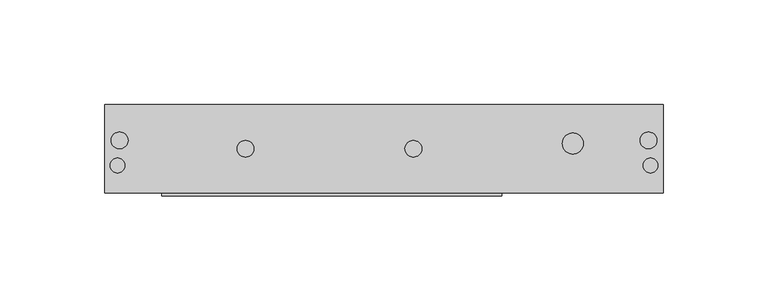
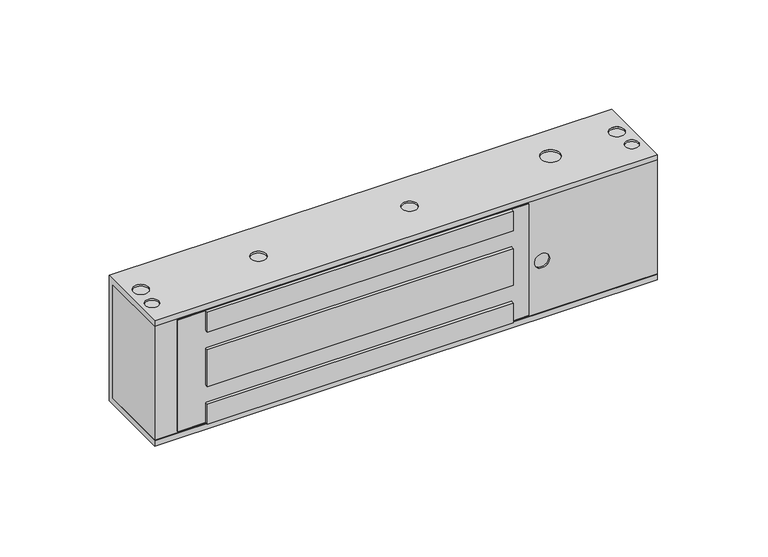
"""IFC4 building model written with IfcOpenShell, lengths in millimetres: proxy geometry, Электромагнитный_замок_ML-395-2_с_датчиком_Холла_серый_AccordTec_R19 : Электромагнитный_замок_ML-395-2_с_датчиком_Холла_серый_AccordTec_R19."""

from ifc_helpers import new_model, si_unit, frame, origin, place, context, project, spatial, polyline, circle_curve, outline, extrude, source, transform, mapped, element, save
from ifc_brep_helpers import plane_surface, revolved_surface, advanced_brep


def generic_models_15ee71e2(model_context):
    return source(origin(), model_context, "Body", "SolidModel", [
        extrude(outline(polyline([(189.0, -1.5), (27.0, -1.5), (27.0, 1.0), (189.0, 1.0), (189.0, -1.5)])), frame((0.0, 0.0, 55.25), z_axis=(0.0, 0.0, 1.0), x_axis=(1.0, 0.0, 0.0)), (0.0, 0.0, 1.0), 11.0),
        extrude(outline(polyline([(189.0, -1.5), (27.0, -1.5), (27.0, 1.0), (189.0, 1.0), (189.0, -1.5)])), frame((0.0, 0.0, 24.75), z_axis=(0.0, 0.0, 1.0), x_axis=(1.0, 0.0, 0.0)), (0.0, 0.0, 1.0), 20.5),
        extrude(outline(polyline([(189.0, -1.5), (27.0, -1.5), (27.0, 1.0), (189.0, 1.0), (189.0, -1.5)])), frame((0.0, 0.0, 3.75), z_axis=(0.0, 0.0, 1.0), x_axis=(1.0, 0.0, 0.0)), (0.0, 0.0, 1.0), 11.0),
        extrude(outline(polyline([(66.25, 12.0), (3.75, 12.0), (3.75, 27.0), (14.75, 27.0), (14.75, 189.0), (3.75, 189.0), (3.75, 198.0), (66.25, 198.0), (66.25, 189.0), (55.25, 189.0), (55.25, 27.0), (66.25, 27.0), (66.25, 12.0)]), holes=[polyline([(45.25, 27.0), (45.25, 189.0), (24.75, 189.0), (24.75, 27.0), (45.25, 27.0)])]), frame((0.0, 0.0, 0.0), z_axis=(0.0, 1.0, 0.0), x_axis=(0.0, 0.0, 1.0)), (0.0, 0.0, 1.0), 1.0),
        advanced_brep(
        [(266.0, 0.0, 67.0), (266.0, 39.0, 67.0), (266.0, 39.0, 3.0), (266.0, 0.0, 3.0), (266.0, 0.0, 0.0), (266.0, 42.0, 0.0), (266.0, 42.0, 70.0), (266.0, 0.0, 70.0), (0.0, 0.0, 67.0), (0.0, 0.0, 70.0), (0.0, 42.0, 70.0), (0.0, 42.0, 0.0), (0.0, 0.0, 0.0), (0.0, 0.0, 3.0), (0.0, 39.0, 3.0), (0.0, 39.0, 67.0), (3.0, 25.0, 0.0), (11.0, 25.0, 0.0), (2.5, 13.0, 0.0), (9.5, 13.0, 0.0), (63.0, 21.0, 0.0), (71.0, 21.0, 0.0), (143.0, 21.0, 0.0), (151.0, 21.0, 0.0), (220.0, 23.5, 0.0), (226.0, 23.5, 0.0), (255.0, 25.0, 0.0), (263.0, 25.0, 0.0), (256.5, 13.0, 0.0), (263.5, 13.0, 0.0), (3.0, 25.0, 70.0), (11.0, 25.0, 70.0), (2.5, 13.0, 70.0), (9.5, 13.0, 70.0), (63.0, 21.0, 70.0), (71.0, 21.0, 70.0), (143.0, 21.0, 70.0), (151.0, 21.0, 70.0), (218.0, 23.5, 70.0), (228.0, 23.5, 70.0), (255.0, 25.0, 70.0), (263.0, 25.0, 70.0), (256.5, 13.0, 70.0), (263.5, 13.0, 70.0), (3.0, 25.0, 1.0), (11.0, 25.0, 1.0), (2.5, 13.0, 1.0), (9.5, 13.0, 1.0), (63.0, 21.0, 1.0), (71.0, 21.0, 1.0), (143.0, 21.0, 1.0), (151.0, 21.0, 1.0), (220.0, 23.5, 1.0), (226.0, 23.5, 1.0), (255.0, 25.0, 1.0), (263.0, 25.0, 1.0), (256.5, 13.0, 1.0), (263.5, 13.0, 1.0), (3.0, 25.0, 69.0), (11.0, 25.0, 69.0), (2.5, 13.0, 69.0), (9.5, 13.0, 69.0), (63.0, 21.0, 69.0), (71.0, 21.0, 69.0), (143.0, 21.0, 69.0), (151.0, 21.0, 69.0), (218.0, 23.5, 69.0), (228.0, 23.5, 69.0), (255.0, 25.0, 69.0), (263.0, 25.0, 69.0), (256.5, 13.0, 69.0), (263.5, 13.0, 69.0)],
        [
            (0, 1),
            (1, 2),
            (2, 3),
            (3, 4),
            (4, 5),
            (5, 6),
            (6, 7),
            (7, 0),
            (8, 9),
            (9, 10),
            (10, 11),
            (11, 12),
            (12, 13),
            (13, 14),
            (14, 15),
            (15, 8),
            (0, 8),
            (15, 1),
            (14, 2),
            (13, 3),
            (12, 4),
            (11, 5),
            (16, 17, circle_curve(frame((7.0, 25.0, 0.0), z_axis=(0.0, 0.0, 1.0), x_axis=(1.0, 0.0, 0.0)), 4.0)),
            (17, 16, circle_curve(frame((7.0, 25.0, 0.0), z_axis=(0.0, 0.0, 1.0), x_axis=(1.0, 0.0, 0.0)), 4.0)),
            (18, 19, circle_curve(frame((6.0, 13.0, 0.0), z_axis=(0.0, 0.0, 1.0), x_axis=(1.0, 0.0, 0.0)), 3.5)),
            (19, 18, circle_curve(frame((6.0, 13.0, 0.0), z_axis=(0.0, 0.0, 1.0), x_axis=(1.0, 0.0, 0.0)), 3.5)),
            (20, 21, circle_curve(frame((67.0, 21.0, 0.0), z_axis=(0.0, 0.0, 1.0), x_axis=(1.0, 0.0, 0.0)), 4.0)),
            (21, 20, circle_curve(frame((67.0, 21.0, 0.0), z_axis=(0.0, 0.0, 1.0), x_axis=(1.0, 0.0, 0.0)), 4.0)),
            (22, 23, circle_curve(frame((147.0, 21.0, 0.0), z_axis=(0.0, 0.0, 1.0), x_axis=(1.0, 0.0, 0.0)), 4.0)),
            (23, 22, circle_curve(frame((147.0, 21.0, 0.0), z_axis=(0.0, 0.0, 1.0), x_axis=(1.0, 0.0, 0.0)), 4.0)),
            (24, 25, circle_curve(frame((223.0, 23.5, 0.0), z_axis=(0.0, 0.0, 1.0), x_axis=(1.0, 0.0, 0.0)), 3.0)),
            (25, 24, circle_curve(frame((223.0, 23.5, 0.0), z_axis=(0.0, 0.0, 1.0), x_axis=(1.0, 0.0, 0.0)), 3.0)),
            (26, 27, circle_curve(frame((259.0, 25.0, 0.0), z_axis=(0.0, 0.0, 1.0), x_axis=(1.0, 0.0, 0.0)), 4.0)),
            (27, 26, circle_curve(frame((259.0, 25.0, 0.0), z_axis=(0.0, 0.0, 1.0), x_axis=(1.0, 0.0, 0.0)), 4.0)),
            (28, 29, circle_curve(frame((260.0, 13.0, 0.0), z_axis=(0.0, 0.0, 1.0), x_axis=(1.0, 0.0, 0.0)), 3.5)),
            (29, 28, circle_curve(frame((260.0, 13.0, 0.0), z_axis=(0.0, 0.0, 1.0), x_axis=(1.0, 0.0, 0.0)), 3.5)),
            (10, 6),
            (9, 7),
            (30, 31, circle_curve(frame((7.0, 25.0, 70.0), z_axis=(0.0, 0.0, -1.0), x_axis=(1.0, 0.0, 0.0)), 4.0)),
            (31, 30, circle_curve(frame((7.0, 25.0, 70.0), z_axis=(0.0, 0.0, -1.0), x_axis=(1.0, 0.0, 0.0)), 4.0)),
            (32, 33, circle_curve(frame((6.0, 13.0, 70.0), z_axis=(0.0, 0.0, -1.0), x_axis=(1.0, 0.0, 0.0)), 3.5)),
            (33, 32, circle_curve(frame((6.0, 13.0, 70.0), z_axis=(0.0, 0.0, -1.0), x_axis=(1.0, 0.0, 0.0)), 3.5)),
            (34, 35, circle_curve(frame((67.0, 21.0, 70.0), z_axis=(0.0, 0.0, -1.0), x_axis=(1.0, 0.0, 0.0)), 4.0)),
            (35, 34, circle_curve(frame((67.0, 21.0, 70.0), z_axis=(0.0, 0.0, -1.0), x_axis=(1.0, 0.0, 0.0)), 4.0)),
            (36, 37, circle_curve(frame((147.0, 21.0, 70.0), z_axis=(0.0, 0.0, -1.0), x_axis=(1.0, 0.0, 0.0)), 4.0)),
            (37, 36, circle_curve(frame((147.0, 21.0, 70.0), z_axis=(0.0, 0.0, -1.0), x_axis=(1.0, 0.0, 0.0)), 4.0)),
            (38, 39, circle_curve(frame((223.0, 23.5, 70.0), z_axis=(0.0, 0.0, -1.0), x_axis=(1.0, 0.0, 0.0)), 5.0)),
            (39, 38, circle_curve(frame((223.0, 23.5, 70.0), z_axis=(0.0, 0.0, -1.0), x_axis=(1.0, 0.0, 0.0)), 5.0)),
            (40, 41, circle_curve(frame((259.0, 25.0, 70.0), z_axis=(0.0, 0.0, -1.0), x_axis=(1.0, 0.0, 0.0)), 4.0)),
            (41, 40, circle_curve(frame((259.0, 25.0, 70.0), z_axis=(0.0, 0.0, -1.0), x_axis=(1.0, 0.0, 0.0)), 4.0)),
            (42, 43, circle_curve(frame((260.0, 13.0, 70.0), z_axis=(0.0, 0.0, -1.0), x_axis=(1.0, 0.0, 0.0)), 3.5)),
            (43, 42, circle_curve(frame((260.0, 13.0, 70.0), z_axis=(0.0, 0.0, -1.0), x_axis=(1.0, 0.0, 0.0)), 3.5)),
            (44, 45, circle_curve(frame((7.0, 25.0, 1.0), z_axis=(0.0, 0.0, -1.0), x_axis=(1.0, 0.0, 0.0)), 4.0)),
            (45, 44, circle_curve(frame((7.0, 25.0, 1.0), z_axis=(0.0, 0.0, -1.0), x_axis=(1.0, 0.0, 0.0)), 4.0)),
            (46, 47, circle_curve(frame((6.0, 13.0, 1.0), z_axis=(0.0, 0.0, -1.0), x_axis=(1.0, 0.0, 0.0)), 3.5)),
            (47, 46, circle_curve(frame((6.0, 13.0, 1.0), z_axis=(0.0, 0.0, -1.0), x_axis=(1.0, 0.0, 0.0)), 3.5)),
            (48, 49, circle_curve(frame((67.0, 21.0, 1.0), z_axis=(0.0, 0.0, -1.0), x_axis=(1.0, 0.0, 0.0)), 4.0)),
            (49, 48, circle_curve(frame((67.0, 21.0, 1.0), z_axis=(0.0, 0.0, -1.0), x_axis=(1.0, 0.0, 0.0)), 4.0)),
            (50, 51, circle_curve(frame((147.0, 21.0, 1.0), z_axis=(0.0, 0.0, -1.0), x_axis=(1.0, 0.0, 0.0)), 4.0)),
            (51, 50, circle_curve(frame((147.0, 21.0, 1.0), z_axis=(0.0, 0.0, -1.0), x_axis=(1.0, 0.0, 0.0)), 4.0)),
            (52, 53, circle_curve(frame((223.0, 23.5, 1.0), z_axis=(0.0, 0.0, -1.0), x_axis=(1.0, 0.0, 0.0)), 3.0)),
            (53, 52, circle_curve(frame((223.0, 23.5, 1.0), z_axis=(0.0, 0.0, -1.0), x_axis=(1.0, 0.0, 0.0)), 3.0)),
            (54, 55, circle_curve(frame((259.0, 25.0, 1.0), z_axis=(0.0, 0.0, -1.0), x_axis=(1.0, 0.0, 0.0)), 4.0)),
            (55, 54, circle_curve(frame((259.0, 25.0, 1.0), z_axis=(0.0, 0.0, -1.0), x_axis=(1.0, 0.0, 0.0)), 4.0)),
            (56, 57, circle_curve(frame((260.0, 13.0, 1.0), z_axis=(0.0, 0.0, -1.0), x_axis=(1.0, 0.0, 0.0)), 3.5)),
            (57, 56, circle_curve(frame((260.0, 13.0, 1.0), z_axis=(0.0, 0.0, -1.0), x_axis=(1.0, 0.0, 0.0)), 3.5)),
            (45, 17),
            (16, 44),
            (47, 19),
            (18, 46),
            (49, 21),
            (20, 48),
            (51, 23),
            (22, 50),
            (53, 25),
            (24, 52),
            (55, 27),
            (26, 54),
            (57, 29),
            (28, 56),
            (58, 59, circle_curve(frame((7.0, 25.0, 69.0), z_axis=(0.0, 0.0, 1.0), x_axis=(1.0, 0.0, 0.0)), 4.0)),
            (59, 58, circle_curve(frame((7.0, 25.0, 69.0), z_axis=(0.0, 0.0, 1.0), x_axis=(1.0, 0.0, 0.0)), 4.0)),
            (60, 61, circle_curve(frame((6.0, 13.0, 69.0), z_axis=(0.0, 0.0, 1.0), x_axis=(1.0, 0.0, 0.0)), 3.5)),
            (61, 60, circle_curve(frame((6.0, 13.0, 69.0), z_axis=(0.0, 0.0, 1.0), x_axis=(1.0, 0.0, 0.0)), 3.5)),
            (62, 63, circle_curve(frame((67.0, 21.0, 69.0), z_axis=(0.0, 0.0, 1.0), x_axis=(1.0, 0.0, 0.0)), 4.0)),
            (63, 62, circle_curve(frame((67.0, 21.0, 69.0), z_axis=(0.0, 0.0, 1.0), x_axis=(1.0, 0.0, 0.0)), 4.0)),
            (64, 65, circle_curve(frame((147.0, 21.0, 69.0), z_axis=(0.0, 0.0, 1.0), x_axis=(1.0, 0.0, 0.0)), 4.0)),
            (65, 64, circle_curve(frame((147.0, 21.0, 69.0), z_axis=(0.0, 0.0, 1.0), x_axis=(1.0, 0.0, 0.0)), 4.0)),
            (66, 67, circle_curve(frame((223.0, 23.5, 69.0), z_axis=(0.0, 0.0, 1.0), x_axis=(1.0, 0.0, 0.0)), 5.0)),
            (67, 66, circle_curve(frame((223.0, 23.5, 69.0), z_axis=(0.0, 0.0, 1.0), x_axis=(1.0, 0.0, 0.0)), 5.0)),
            (68, 69, circle_curve(frame((259.0, 25.0, 69.0), z_axis=(0.0, 0.0, 1.0), x_axis=(1.0, 0.0, 0.0)), 4.0)),
            (69, 68, circle_curve(frame((259.0, 25.0, 69.0), z_axis=(0.0, 0.0, 1.0), x_axis=(1.0, 0.0, 0.0)), 4.0)),
            (70, 71, circle_curve(frame((260.0, 13.0, 69.0), z_axis=(0.0, 0.0, 1.0), x_axis=(1.0, 0.0, 0.0)), 3.5)),
            (71, 70, circle_curve(frame((260.0, 13.0, 69.0), z_axis=(0.0, 0.0, 1.0), x_axis=(1.0, 0.0, 0.0)), 3.5)),
            (59, 31),
            (30, 58),
            (61, 33),
            (32, 60),
            (63, 35),
            (34, 62),
            (65, 37),
            (36, 64),
            (67, 39),
            (38, 66),
            (69, 41),
            (40, 68),
            (71, 43),
            (42, 70),
        ],
        [
            plane_surface(frame((266.0, 0.0, 67.0), z_axis=(1.0, 0.0, 0.0), x_axis=(0.0, 1.0, 0.0))),
            plane_surface(frame((0.0, 0.0, 67.0), z_axis=(-1.0, 0.0, 0.0), x_axis=(0.0, -1.0, 0.0))),
            plane_surface(frame((266.0, 0.0, 67.0), z_axis=(0.0, 0.0, -1.0), x_axis=(-1.0, 0.0, 0.0))),
            plane_surface(frame((266.0, 39.0, 67.0), z_axis=(0.0, -1.0, 0.0), x_axis=(-1.0, 0.0, 0.0))),
            plane_surface(frame((266.0, 39.0, 3.0), z_axis=(0.0, 0.0, 1.0), x_axis=(-1.0, 0.0, 0.0))),
            plane_surface(frame((266.0, 0.0, 3.0), z_axis=(0.0, -1.0, 0.0), x_axis=(-1.0, 0.0, 0.0))),
            plane_surface(frame((266.0, 0.0, 0.0), z_axis=(0.0, 0.0, -1.0), x_axis=(-1.0, 0.0, 0.0))),
            plane_surface(frame((266.0, 42.0, 0.0), z_axis=(0.0, 1.0, 0.0), x_axis=(-1.0, 0.0, 0.0))),
            plane_surface(frame((266.0, 42.0, 70.0), z_axis=(0.0, 0.0, 1.0), x_axis=(-1.0, 0.0, 0.0))),
            plane_surface(frame((266.0, 0.0, 70.0), z_axis=(0.0, -1.0, 0.0), x_axis=(-1.0, 0.0, 0.0))),
            plane_surface(frame((11.0, 25.0, 1.0), z_axis=(0.0, 0.0, -1.0), x_axis=(0.0, 1.0, 0.0))),
            revolved_surface(polyline([(11.0, 25.0, 1.0), (11.0, 25.0, 0.0)]), (7.0, 25.0, -1.0), (0.0, 0.0, 1.0)),
            revolved_surface(polyline([(9.5, 13.0, 1.0), (9.5, 13.0, 0.0)]), (6.0, 13.0, 0.0), (0.0, 0.0, 1.0)),
            revolved_surface(polyline([(71.0, 21.0, 1.0), (71.0, 21.0, 0.0)]), (67.0, 21.0, 0.0), (0.0, 0.0, 1.0)),
            revolved_surface(polyline([(151.0, 21.0, 1.0), (151.0, 21.0, 0.0)]), (147.0, 21.0, 0.0), (0.0, 0.0, 1.0)),
            revolved_surface(polyline([(226.0, 23.5, 1.0), (226.0, 23.5, 0.0)]), (223.0, 23.5, 0.0), (0.0, 0.0, 1.0)),
            revolved_surface(polyline([(263.0, 25.0, 1.0), (263.0, 25.0, 0.0)]), (259.0, 25.0, 0.0), (0.0, 0.0, 1.0)),
            revolved_surface(polyline([(263.5, 13.0, 1.0), (263.5, 13.0, 0.0)]), (260.0, 13.0, 0.0), (0.0, 0.0, 1.0)),
            plane_surface(frame((11.0, 25.0, 69.0), z_axis=(0.0, 0.0, 1.0), x_axis=(0.0, -1.0, 0.0))),
            revolved_surface(polyline([(11.0, 25.0, 69.0), (11.0, 25.0, 70.0)]), (7.0, 25.0, 71.0), (0.0, 0.0, -1.0)),
            revolved_surface(polyline([(9.5, 13.0, 69.0), (9.5, 13.0, 70.0)]), (6.0, 13.0, 70.0), (0.0, 0.0, -1.0)),
            revolved_surface(polyline([(71.0, 21.0, 69.0), (71.0, 21.0, 70.0)]), (67.0, 21.0, 70.0), (0.0, 0.0, -1.0)),
            revolved_surface(polyline([(151.0, 21.0, 69.0), (151.0, 21.0, 70.0)]), (147.0, 21.0, 70.0), (0.0, 0.0, -1.0)),
            revolved_surface(polyline([(228.0, 23.5, 69.0), (228.0, 23.5, 70.0)]), (223.0, 23.5, 70.0), (0.0, 0.0, -1.0)),
            revolved_surface(polyline([(263.0, 25.0, 69.0), (263.0, 25.0, 70.0)]), (259.0, 25.0, 70.0), (0.0, 0.0, -1.0)),
            revolved_surface(polyline([(263.5, 13.0, 69.0), (263.5, 13.0, 70.0)]), (260.0, 13.0, 70.0), (0.0, 0.0, -1.0)),
        ],
        [
            (0, [[1, 2, 3, 4, 5, 6, 7, 8]]),
            (1, [[9, 10, 11, 12, 13, 14, 15, 16]]),
            (2, [[-1, 17, -16, 18]]),
            (3, [[-2, -18, -15, 19]]),
            (4, [[-3, -19, -14, 20]]),
            (5, [[-4, -20, -13, 21]]),
            (6, [[-5, -21, -12, 22], [23, 24], [25, 26], [27, 28], [29, 30], [31, 32], [33, 34], [35, 36]]),
            (7, [[-6, -22, -11, 37]]),
            (8, [[-7, -37, -10, 38], [39, 40], [41, 42], [43, 44], [45, 46], [47, 48], [49, 50], [51, 52]]),
            (9, [[-8, -38, -9, -17]]),
            (10, [[53, 54]]),
            (10, [[55, 56]]),
            (10, [[57, 58]]),
            (10, [[59, 60]]),
            (10, [[61, 62]]),
            (10, [[63, 64]]),
            (10, [[65, 66]]),
            (11, [[-54, 67, -23, 68]]),
            (11, [[-53, -68, -24, -67]]),
            (12, [[-56, 69, -25, 70]]),
            (12, [[-55, -70, -26, -69]]),
            (13, [[-58, 71, -27, 72]]),
            (13, [[-57, -72, -28, -71]]),
            (14, [[-60, 73, -29, 74]]),
            (14, [[-59, -74, -30, -73]]),
            (15, [[-62, 75, -31, 76]]),
            (15, [[-61, -76, -32, -75]]),
            (16, [[-64, 77, -33, 78]]),
            (16, [[-63, -78, -34, -77]]),
            (17, [[-66, 79, -35, 80]]),
            (17, [[-65, -80, -36, -79]]),
            (18, [[81, 82]]),
            (18, [[83, 84]]),
            (18, [[85, 86]]),
            (18, [[87, 88]]),
            (18, [[89, 90]]),
            (18, [[91, 92]]),
            (18, [[93, 94]]),
            (19, [[-82, 95, -39, 96]]),
            (19, [[-81, -96, -40, -95]]),
            (20, [[-84, 97, -41, 98]]),
            (20, [[-83, -98, -42, -97]]),
            (21, [[-86, 99, -43, 100]]),
            (21, [[-85, -100, -44, -99]]),
            (22, [[-88, 101, -45, 102]]),
            (22, [[-87, -102, -46, -101]]),
            (23, [[-90, 103, -47, 104]]),
            (23, [[-89, -104, -48, -103]]),
            (24, [[-92, 105, -49, 106]]),
            (24, [[-91, -106, -50, -105]]),
            (25, [[-94, 107, -51, 108]]),
            (25, [[-93, -108, -52, -107]]),
        ],
    ),
        advanced_brep(
        [(0.0, 0.0, 3.0), (0.0, 0.0, 67.0), (0.0, 39.0, 67.0), (0.0, 39.0, 3.0), (266.0, 0.0, 3.0), (266.0, 0.0, 67.0), (12.0, 0.0, 3.75), (12.0, 0.0, 66.25), (27.0, 0.0, 66.25), (189.0, 0.0, 66.25), (198.0, 0.0, 66.25), (198.0, 0.0, 3.75), (189.0, 0.0, 3.75), (27.0, 0.0, 3.75), (209.0, 0.0, 32.0), (201.0, 0.0, 32.0), (266.0, 39.0, 3.0), (266.0, 39.0, 67.0), (12.0, 1.0, 66.25), (12.0, 1.0, 3.75), (27.0, 1.0, 3.75), (189.0, 1.0, 3.75), (198.0, 1.0, 3.75), (198.0, 1.0, 66.25), (189.0, 1.0, 66.25), (27.0, 1.0, 66.25), (201.0, 1.0, 32.0), (209.0, 1.0, 32.0)],
        [
            (0, 1),
            (1, 2),
            (2, 3),
            (3, 0),
            (0, 4),
            (4, 5),
            (5, 1),
            (6, 7),
            (7, 8),
            (8, 9),
            (9, 10),
            (10, 11),
            (11, 12),
            (12, 13),
            (13, 6),
            (14, 15, circle_curve(frame((205.0, 0.0, 32.0), z_axis=(0.0, 1.0, 0.0), x_axis=(1.0, 0.0, 0.0)), 4.0)),
            (15, 14, circle_curve(frame((205.0, 0.0, 32.0), z_axis=(0.0, 1.0, 0.0), x_axis=(1.0, 0.0, 0.0)), 4.0)),
            (4, 16),
            (16, 17),
            (17, 5),
            (17, 2),
            (16, 3),
            (18, 19),
            (19, 20),
            (20, 21),
            (21, 22),
            (22, 23),
            (23, 24),
            (24, 25),
            (25, 18),
            (23, 10),
            (7, 18),
            (6, 19),
            (11, 22),
            (26, 27, circle_curve(frame((205.0, 1.0, 32.0), z_axis=(0.0, -1.0, 0.0), x_axis=(1.0, 0.0, 0.0)), 4.0)),
            (27, 26, circle_curve(frame((205.0, 1.0, 32.0), z_axis=(0.0, -1.0, 0.0), x_axis=(1.0, 0.0, 0.0)), 4.0)),
            (26, 15),
            (14, 27),
        ],
        [
            plane_surface(frame((0.0, 42.0, 70.0), z_axis=(-1.0, 0.0, 0.0), x_axis=(0.0, 0.0, -1.0))),
            plane_surface(frame((0.0, 0.0, 70.0), z_axis=(0.0, -1.0, 0.0), x_axis=(0.0, 0.0, -1.0))),
            plane_surface(frame((266.0, 0.0, 70.0), z_axis=(1.0, 0.0, 0.0), x_axis=(0.0, 0.0, -1.0))),
            plane_surface(frame((266.0, 0.0, 67.0), z_axis=(0.0, 0.0, 1.0), x_axis=(-1.0, 0.0, 0.0))),
            plane_surface(frame((266.0, 39.0, 67.0), z_axis=(0.0, 1.0, 0.0), x_axis=(-1.0, 0.0, 0.0))),
            plane_surface(frame((266.0, 39.0, 3.0), z_axis=(0.0, 0.0, -1.0), x_axis=(-1.0, 0.0, 0.0))),
            plane_surface(frame((12.0, 1.0, 66.25), z_axis=(0.0, -1.0, 0.0), x_axis=(1.0, 0.0, 0.0))),
            plane_surface(frame((198.0, -1.0, 66.25), z_axis=(0.0, 0.0, -1.0), x_axis=(0.0, 1.0, 0.0))),
            plane_surface(frame((12.0, -1.0, 66.25), z_axis=(1.0, 0.0, 0.0), x_axis=(0.0, 1.0, 0.0))),
            plane_surface(frame((12.0, -1.0, 3.75), z_axis=(0.0, 0.0, 1.0), x_axis=(0.0, 1.0, 0.0))),
            plane_surface(frame((198.0, -1.0, 3.75), z_axis=(-1.0, 0.0, 0.0), x_axis=(0.0, 1.0, 0.0))),
            plane_surface(frame((209.0, 1.0, 32.0), z_axis=(0.0, -1.0, 0.0), x_axis=(0.0, 0.0, -1.0))),
            revolved_surface(polyline([(209.0, 0.0, 32.0), (209.0, 1.0, 32.0)]), (205.0, 1.0, 32.0), (0.0, -1.0, 0.0)),
        ],
        [
            (0, [[1, 2, 3, 4]]),
            (1, [[-1, 5, 6, 7], [8, 9, 10, 11, 12, 13, 14, 15], [16, 17]]),
            (2, [[-6, 18, 19, 20]]),
            (3, [[21, -2, -7, -20]]),
            (4, [[-21, -19, 22, -3]]),
            (5, [[-22, -18, -5, -4]]),
            (6, [[23, 24, 25, 26, 27, 28, 29, 30]]),
            (7, [[31, -11, -10, -9, 32, -30, -29, -28]]),
            (8, [[-23, -32, -8, 33]]),
            (9, [[-33, -15, -14, -13, 34, -26, -25, -24]]),
            (10, [[-27, -34, -12, -31]]),
            (11, [[35, 36]]),
            (12, [[-35, 37, -16, 38]]),
            (12, [[-36, -38, -17, -37]]),
        ],
    ),
    ])


if __name__ == "__main__":
    model = new_model("IFC4")
    model_context = context("Model", 3, world=origin())
    ifc_project = project(units=[si_unit("LENGTHUNIT", "METRE", prefix="MILLI")], contexts=[model_context])
    site = spatial("IfcSite", under=ifc_project)
    building = spatial("IfcBuilding", under=site)
    placement = place(None, origin())
    generic_models_shape = generic_models_15ee71e2(model_context)
    element("IfcBuildingElementProxy", 1, Name="Электромагнитный_замок_ML-395-2_с_датчиком_Холла_серый_AccordTec_R19 : Электромагнитный_замок_ML-395-2_с_датчиком_Холла_серый_AccordTec_R19", ObjectType="Электромагнитный_замок_ML-395-2_с_датчиком_Холла_серый_AccordTec_R19 : Электромагнитный_замок_ML-395-2_с_датчиком_Холла_серый_AccordTec_R19", at=placement, inside=building, context=model_context, shape_type="MappedRepresentation", body=[
        mapped(generic_models_shape, transform((0.0, 0.0, 0.0), x_axis=(1.0, 0.0, 0.0), y_axis=(0.0, 1.0, 0.0), z_axis=(0.0, 0.0, 1.0))),
    ])
    save(model, "model.ifc")
